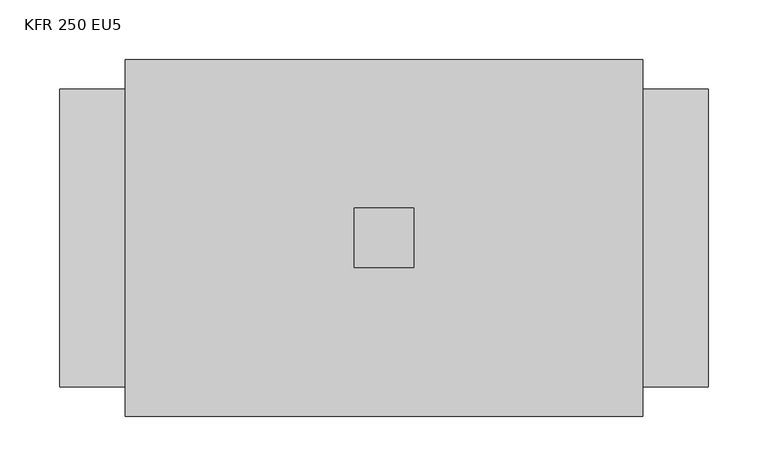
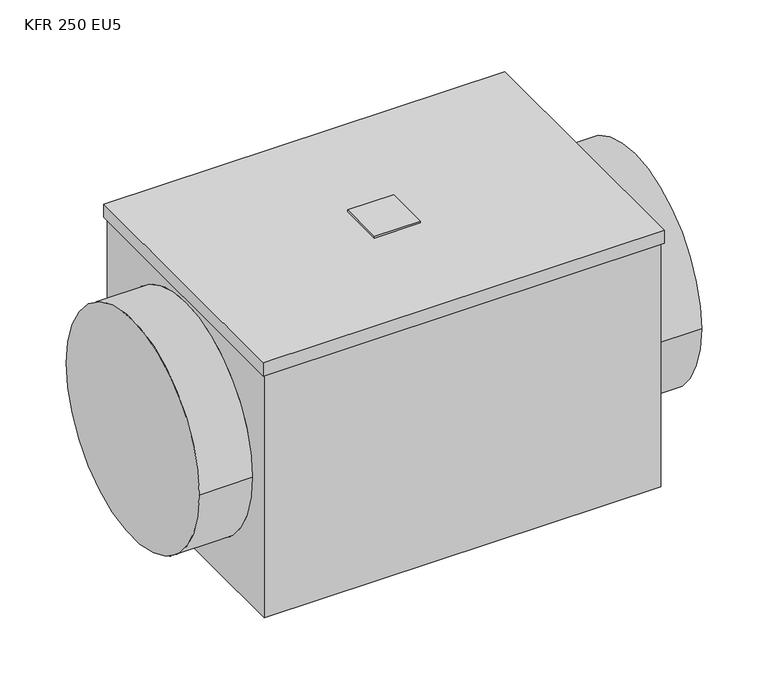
"""IFC4 building model written with IfcOpenShell, lengths in millimetres: damper geometry, KORF_Фильтр_Карманный_Круглый_KFR : KFR 250 EU5."""

from ifc_helpers import new_model, si_unit, frame, origin, place, context, project, spatial, polyline, circle_curve, outline, extrude, source, transform, mapped, element, save
from ifc_brep_helpers import plane_surface, cylinder_surface, advanced_brep


def kfr_250_eu5_363199dd(model_context):
    return source(origin(), model_context, "Body", "SolidModel", [
        extrude(outline(polyline([(247.5, -25.0), (247.5, 25.0), (297.5, 25.0), (297.5, -25.0), (247.5, -25.0)])), frame((0.0, 0.0, 147.5), z_axis=(0.0, 0.0, 1.0), x_axis=(1.0, 0.0, 0.0)), (0.0, 0.0, 1.0), 2.0),
        advanced_brep(
        [(545.0, -125.0, 0.0), (545.0, 125.0, 0.0), (0.0, -125.0, 0.0), (0.0, 125.0, 0.0), (487.5, -125.0, 0.0), (487.5, 125.0, 0.0), (57.5, 125.0, 0.0), (57.5, -125.0, 0.0), (487.5, -147.5, -147.5), (487.5, 147.5, -147.5), (487.5, 147.5, 132.5), (487.5, -147.5, 132.5), (57.5, 147.5, -147.5), (57.5, -147.5, -147.5), (57.5, -147.5, 132.5), (57.5, 147.5, 132.5), (490.0, 150.0, 147.5), (55.0, 150.0, 147.5), (55.0, -150.0, 147.5), (490.0, -150.0, 147.5), (490.0, 150.0, 132.5), (490.0, -150.0, 132.5), (55.0, -150.0, 132.5), (55.0, 150.0, 132.5)],
        [
            (0, 1, circle_curve(frame((545.0, 0.0, 0.0), z_axis=(1.0, 0.0, 0.0), x_axis=(0.0, 1.0, 0.0)), 125.0)),
            (1, 0, circle_curve(frame((545.0, 0.0, 0.0), z_axis=(1.0, 0.0, 0.0), x_axis=(0.0, 1.0, 0.0)), 125.0)),
            (2, 3, circle_curve(frame((0.0, 0.0, 0.0), z_axis=(-1.0, 0.0, 0.0), x_axis=(0.0, 1.0, 0.0)), 125.0)),
            (3, 2, circle_curve(frame((0.0, 0.0, 0.0), z_axis=(-1.0, 0.0, 0.0), x_axis=(0.0, 1.0, 0.0)), 125.0)),
            (0, 4),
            (4, 5, circle_curve(frame((487.5, 0.0, 0.0), z_axis=(1.0, 0.0, 0.0), x_axis=(0.0, 1.0, 0.0)), 125.0)),
            (5, 1),
            (3, 6),
            (6, 7, circle_curve(frame((57.5, 0.0, 0.0), z_axis=(-1.0, 0.0, 0.0), x_axis=(0.0, 1.0, 0.0)), 125.0)),
            (7, 2),
            (5, 4, circle_curve(frame((487.5, 0.0, 0.0), z_axis=(1.0, 0.0, 0.0), x_axis=(0.0, 1.0, 0.0)), 125.0)),
            (7, 6, circle_curve(frame((57.5, 0.0, 0.0), z_axis=(-1.0, 0.0, 0.0), x_axis=(0.0, 1.0, 0.0)), 125.0)),
            (8, 9),
            (9, 10),
            (10, 11),
            (11, 8),
            (12, 13),
            (13, 14),
            (14, 15),
            (15, 12),
            (13, 8),
            (11, 14),
            (12, 9),
            (15, 10),
            (16, 17),
            (17, 18),
            (18, 19),
            (19, 16),
            (20, 21),
            (21, 22),
            (22, 23),
            (23, 20),
            (16, 20),
            (23, 17),
            (22, 18),
            (21, 19),
        ],
        [
            plane_surface(frame((545.0, 125.0, 0.0), z_axis=(1.0, 0.0, 0.0), x_axis=(0.0, 0.0, 1.0))),
            plane_surface(frame((0.0, 125.0, 0.0), z_axis=(-1.0, 0.0, 0.0), x_axis=(0.0, 0.0, -1.0))),
            cylinder_surface(frame((0.0, 0.0, 0.0), z_axis=(1.0, 0.0, 0.0), x_axis=(0.0, 1.0, 0.0)), 125.0),
            plane_surface(frame((487.5, -147.5, 147.5), z_axis=(1.0, 0.0, 0.0), x_axis=(0.0, 0.0, -1.0))),
            plane_surface(frame((57.5, -147.5, 147.5), z_axis=(-1.0, 0.0, 0.0), x_axis=(0.0, 0.0, 1.0))),
            plane_surface(frame((487.5, -147.5, 147.5), z_axis=(0.0, -1.0, 0.0), x_axis=(-1.0, 0.0, 0.0))),
            plane_surface(frame((487.5, -147.5, -147.5), z_axis=(0.0, 0.0, -1.0), x_axis=(-1.0, 0.0, 0.0))),
            plane_surface(frame((487.5, 147.5, -147.5), z_axis=(0.0, 1.0, 0.0), x_axis=(-1.0, 0.0, 0.0))),
            plane_surface(frame((487.5, 147.5, 147.5), z_axis=(0.0, 0.0, 1.0), x_axis=(-1.0, 0.0, 0.0))),
            plane_surface(frame((55.0, 150.0, 132.5), z_axis=(0.0, 0.0, -1.0), x_axis=(1.0, 0.0, 0.0))),
            plane_surface(frame((490.0, 150.0, 147.5), z_axis=(0.0, 1.0, 0.0), x_axis=(0.0, 0.0, -1.0))),
            plane_surface(frame((55.0, 150.0, 147.5), z_axis=(-1.0, 0.0, 0.0), x_axis=(0.0, 0.0, -1.0))),
            plane_surface(frame((55.0, -150.0, 147.5), z_axis=(0.0, -1.0, 0.0), x_axis=(0.0, 0.0, -1.0))),
            plane_surface(frame((490.0, -150.0, 147.5), z_axis=(1.0, 0.0, 0.0), x_axis=(0.0, 0.0, -1.0))),
        ],
        [
            (0, [[1, 2]]),
            (1, [[3, 4]]),
            (2, [[-1, 5, 6, 7]]),
            (2, [[-4, 8, 9, 10]]),
            (2, [[-2, -7, 11, -5]]),
            (2, [[-3, -10, 12, -8]]),
            (3, [[13, 14, 15, 16], [-6, -11]]),
            (4, [[17, 18, 19, 20], [-9, -12]]),
            (5, [[21, -16, 22, -18]]),
            (6, [[-13, -21, -17, 23]]),
            (7, [[-23, -20, 24, -14]]),
            (8, [[25, 26, 27, 28]]),
            (9, [[29, 30, 31, 32], [-15, -24, -19, -22]]),
            (10, [[-25, 33, -32, 34]]),
            (11, [[-26, -34, -31, 35]]),
            (12, [[-27, -35, -30, 36]]),
            (13, [[-28, -36, -29, -33]]),
        ],
    ),
    ])


if __name__ == "__main__":
    model = new_model("IFC4")
    model_context = context("Model", 3, world=origin())
    ifc_project = project(units=[si_unit("LENGTHUNIT", "METRE", prefix="MILLI")], contexts=[model_context])
    site = spatial("IfcSite", under=ifc_project)
    building = spatial("IfcBuilding", under=site)
    placement = place(None, origin())
    kfr_250_eu5_shape = kfr_250_eu5_363199dd(model_context)
    element("IfcDamper", 1, ObjectType="KORF_Фильтр_Карманный_Круглый_KFR : KFR 250 EU5", at=placement, inside=building, context=model_context, shape_type="MappedRepresentation", body=[
        mapped(kfr_250_eu5_shape, transform((0.0, 0.0, 0.0), x_axis=(1.0, 0.0, 0.0), y_axis=(0.0, 1.0, 0.0), z_axis=(0.0, 0.0, 1.0))),
    ])
    save(model, "model.ifc")
